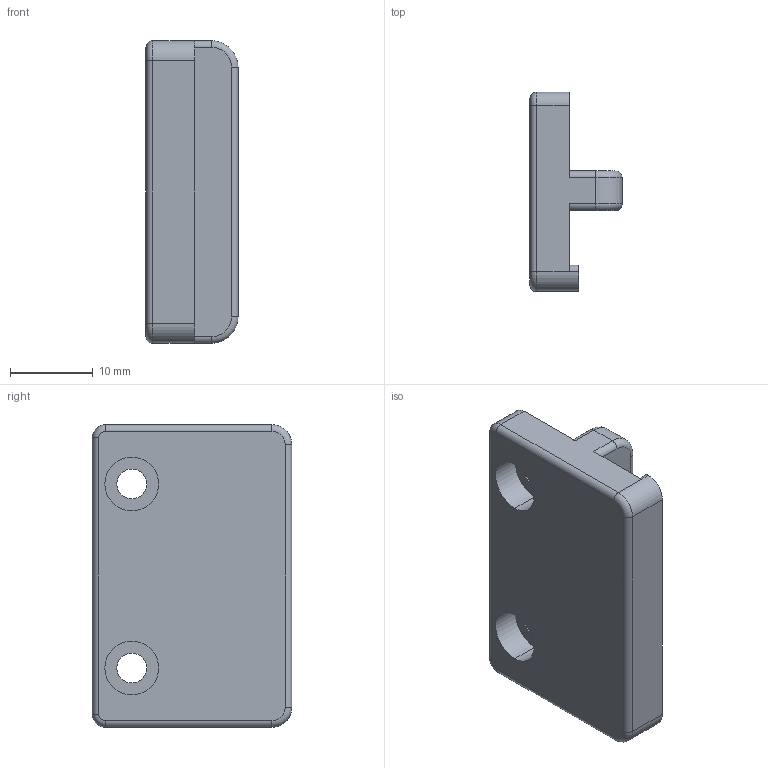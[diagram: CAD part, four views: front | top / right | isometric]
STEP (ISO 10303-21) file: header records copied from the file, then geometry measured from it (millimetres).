
FILE_DESCRIPTION (( 'STEP AP203' ), '1' );
FILE_NAME ('ZtopHose_p01.STEP', '2018-03-23T16:17:06', ( '' ), ( '' ), 'SwSTEP 2.0', 'SolidWorks 2015', '' );
FILE_SCHEMA (( 'CONFIG_CONTROL_DESIGN' ));
Length unit declared in the file: inch
Products named in the file (1): ZtopHose_p01
Bounding box: 11.11 x 24.07 x 36.51 mm (x, y, z)
Volume: 5099.6 mm3; surface area: 2958.5 mm2
Topology: 1 solids, 1 shells, 48 faces, 114 edges, 70 vertices
Faces by surface type: cylinder 26, plane 14, torus 8
Entity records: 1481 total; most frequent: DIRECTION 272, CARTESIAN_POINT 233, ORIENTED_EDGE 228, EDGE_CURVE 114, AXIS2_PLACEMENT_3D 109, VERTEX_POINT 70, CIRCLE 60, EDGE_LOOP 54
